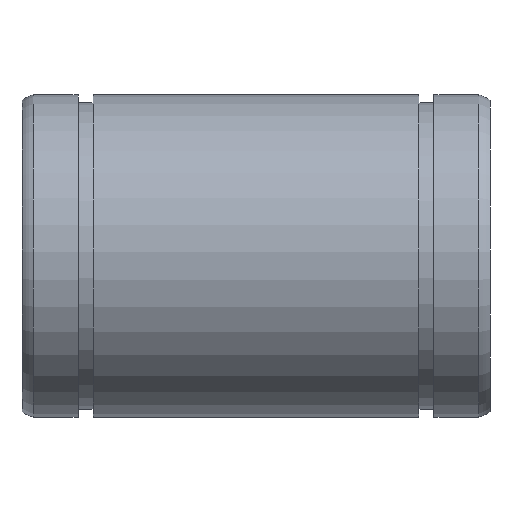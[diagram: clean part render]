
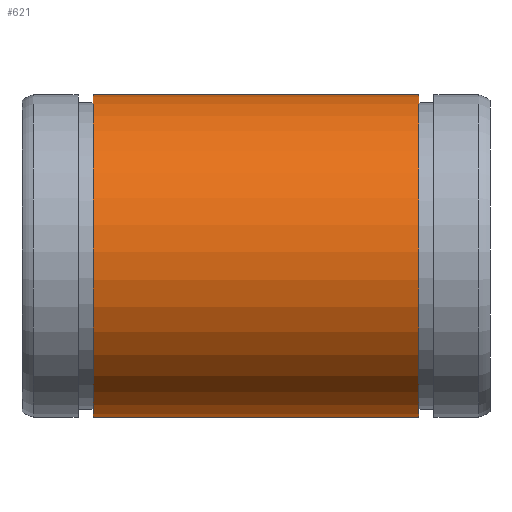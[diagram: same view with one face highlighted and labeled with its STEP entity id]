
A CAD part, front view. The second image highlights one B-rep face of the part: STEP entity #621.
In plain terms, the highlighted cylindrical face has radius 20 mm (diameter 40 mm), a partial arc.
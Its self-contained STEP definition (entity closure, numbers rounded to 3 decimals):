
#180=CARTESIAN_POINT('',(8.8,1.,-19.975));
#181=VERTEX_POINT('',#180);
#188=CARTESIAN_POINT('',(49.2,1.,-19.975));
#189=VERTEX_POINT('',#188);
#190=CARTESIAN_POINT('',(49.2,1.,-19.975));
#191=DIRECTION('',(-1.0,0.0,0.0));
#192=VECTOR('',#191,40.4);
#193=LINE('',#190,#192);
#194=EDGE_CURVE('',#189,#181,#193,.T.);
#236=CARTESIAN_POINT('',(49.2,-1.,-19.975));
#237=VERTEX_POINT('',#236);
#244=CARTESIAN_POINT('',(8.8,-1.,-19.975));
#245=VERTEX_POINT('',#244);
#246=CARTESIAN_POINT('',(8.8,-1.,-19.975));
#247=DIRECTION('',(1.0,0.0,0.0));
#248=VECTOR('',#247,40.4);
#249=LINE('',#246,#248);
#250=EDGE_CURVE('',#245,#237,#249,.T.);
#594=CARTESIAN_POINT('',(49.2,0.0,0.));
#595=DIRECTION('',(-1.0,0.0,0.0));
#596=DIRECTION('',(0.0,0.0,1.0));
#597=AXIS2_PLACEMENT_3D('',#594,#595,#596);
#598=CIRCLE('',#597,20.);
#599=EDGE_CURVE('',#237,#189,#598,.T.);
#604=CARTESIAN_POINT('',(29.,0.0,0.));
#605=DIRECTION('',(-1.0,0.0,0.));
#606=DIRECTION('',(0.0,0.0,1.0));
#607=AXIS2_PLACEMENT_3D('',#604,#605,#606);
#608=CYLINDRICAL_SURFACE('',#607,20.);
#609=ORIENTED_EDGE('',*,*,#250,.T.);
#610=ORIENTED_EDGE('',*,*,#599,.T.);
#611=ORIENTED_EDGE('',*,*,#194,.T.);
#612=CARTESIAN_POINT('',(8.8,0.0,0.));
#613=DIRECTION('',(-1.0,0.0,0.0));
#614=DIRECTION('',(0.0,0.0,1.0));
#615=AXIS2_PLACEMENT_3D('',#612,#613,#614);
#616=CIRCLE('',#615,20.);
#617=EDGE_CURVE('',#245,#181,#616,.T.);
#618=ORIENTED_EDGE('',*,*,#617,.F.);
#619=EDGE_LOOP('',(#609,#610,#611,#618));
#620=FACE_OUTER_BOUND('',#619,.T.);
#621=ADVANCED_FACE('',(#620),#608,.T.);
